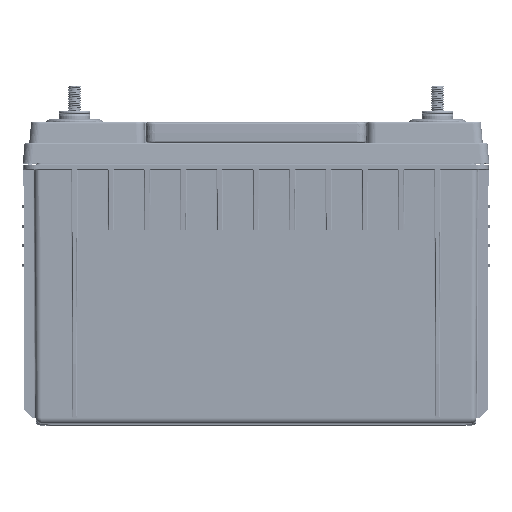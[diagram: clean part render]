
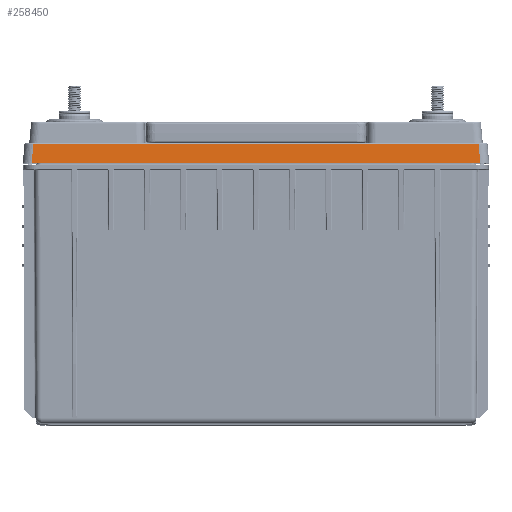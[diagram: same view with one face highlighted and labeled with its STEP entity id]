
A CAD part, top view. The second image highlights one B-rep face of the part: STEP entity #258450.
In plain terms, the highlighted planar face has unit normal (0, 0.087, 0.996).
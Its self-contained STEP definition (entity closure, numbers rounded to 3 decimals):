
#2249 = VECTOR ( 'NONE', #48025, 39.37 ) ;
#22425 = ORIENTED_EDGE ( 'NONE', *, *, #320072, .T. ) ;
#22696 = VECTOR ( 'NONE', #89538, 39.37 ) ;
#25564 = FACE_OUTER_BOUND ( 'NONE', #123725, .T. ) ;
#29685 = PLANE ( 'NONE',  #246962 ) ;
#48025 = DIRECTION ( 'NONE',  ( -1., 0., 0. ) ) ;
#55084 = VERTEX_POINT ( 'NONE', #133236 ) ;
#68082 = ORIENTED_EDGE ( 'NONE', *, *, #205160, .T. ) ;
#89538 = DIRECTION ( 'NONE',  ( -0.087, 0.992, -0.087 ) ) ;
#96060 = CARTESIAN_POINT ( 'NONE',  ( -6.425, 7.848, 3.345 ) ) ;
#98048 = CARTESIAN_POINT ( 'NONE',  ( 6.225, 7.288, 3.394 ) ) ;
#102571 = ORIENTED_EDGE ( 'NONE', *, *, #337429, .T. ) ;
#116500 = LINE ( 'NONE', #404982, #240121 ) ;
#123725 = EDGE_LOOP ( 'NONE', ( #102571, #251962, #68082, #22425 ) ) ;
#125136 = DIRECTION ( 'NONE',  ( 0., -0.996, 0.087 ) ) ;
#128729 = VERTEX_POINT ( 'NONE', #372729 ) ;
#130314 = CARTESIAN_POINT ( 'NONE',  ( -6.225, 7.288, 3.394 ) ) ;
#133236 = CARTESIAN_POINT ( 'NONE',  ( 6.179, 7.811, 3.348 ) ) ;
#148921 = VERTEX_POINT ( 'NONE', #98048 ) ;
#151856 = CARTESIAN_POINT ( 'NONE',  ( 6.081, 8.934, 3.25 ) ) ;
#205160 = EDGE_CURVE ( 'NONE', #128729, #213757, #238033, .T. ) ;
#213757 = VERTEX_POINT ( 'NONE', #130314 ) ;
#238033 = LINE ( 'NONE', #368761, #343960 ) ;
#239065 = LINE ( 'NONE', #299395, #2249 ) ;
#240121 = VECTOR ( 'NONE', #305509, 39.37 ) ;
#246962 = AXIS2_PLACEMENT_3D ( 'NONE', #96060, #283004, #125136 ) ;
#251962 = ORIENTED_EDGE ( 'NONE', *, *, #366373, .T. ) ;
#258450 = ADVANCED_FACE ( 'NONE', ( #25564 ), #29685, .T. ) ;
#273282 = DIRECTION ( 'NONE',  ( -0.087, -0.992, 0.087 ) ) ;
#283004 = DIRECTION ( 'NONE',  ( 0., 0.087, 0.996 ) ) ;
#299395 = CARTESIAN_POINT ( 'NONE',  ( -6.176, 7.811, 3.348 ) ) ;
#305509 = DIRECTION ( 'NONE',  ( 1., 0., 0. ) ) ;
#320072 = EDGE_CURVE ( 'NONE', #213757, #148921, #116500, .T. ) ;
#337429 = EDGE_CURVE ( 'NONE', #148921, #55084, #371956, .T. ) ;
#343960 = VECTOR ( 'NONE', #273282, 39.37 ) ;
#366373 = EDGE_CURVE ( 'NONE', #55084, #128729, #239065, .T. ) ;
#368761 = CARTESIAN_POINT ( 'NONE',  ( -6.178, 7.827, 3.347 ) ) ;
#371956 = LINE ( 'NONE', #151856, #22696 ) ;
#372729 = CARTESIAN_POINT ( 'NONE',  ( -6.179, 7.811, 3.348 ) ) ;
#404982 = CARTESIAN_POINT ( 'NONE',  ( -6.425, 7.288, 3.394 ) ) ;
